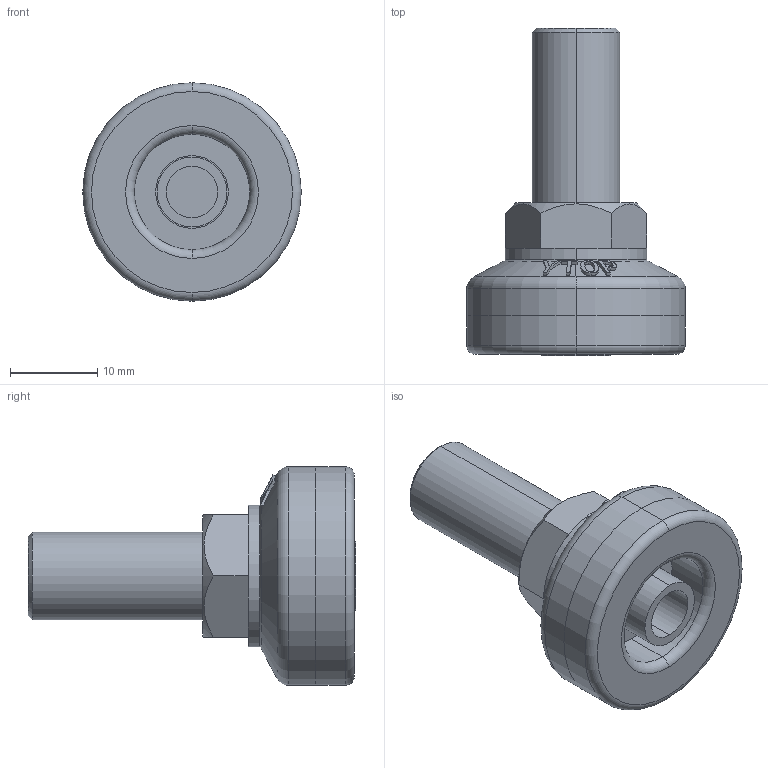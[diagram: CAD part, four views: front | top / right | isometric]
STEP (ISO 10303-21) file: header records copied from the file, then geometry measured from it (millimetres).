
FILE_DESCRIPTION (( 'STEP AP203' ), '1' );
FILE_NAME ('R-25-1020-TPU.STEP', '2020-09-11T02:17:45', ( '' ), ( '' ), 'SwSTEP 2.0', 'SolidWorks 2016', '' );
FILE_SCHEMA (( 'CONFIG_CONTROL_DESIGN' ));
Length unit declared in the file: millimetre
Products named in the file (4): S倰覃誹褐_25菁菜; R-25-1020-TPU; S倰覃誹褐_25裔赽; 穩諉蹟裝M10炵蹈_M10X20
Assembly tree (3 placements, depth 2):
  R-25-1020-TPU
    S倰覃誹褐_25菁菜
    S倰覃誹褐_25裔赽
    穩諉蹟裝M10炵蹈_M10X20
Bounding box: 25 x 37.5 x 25 mm (x, y, z)
Volume: 6115.1 mm3; surface area: 5622.6 mm2
Topology: 3 solids, 3 shells, 130 faces, 311 edges, 200 vertices
Faces by surface type: bspline 38, plane 36, cylinder 26, torus 16, cone 14
Entity records: 6930 total; most frequent: CARTESIAN_POINT 3750, ORIENTED_EDGE 622, DIRECTION 491, EDGE_CURVE 311, AXIS2_PLACEMENT_3D 206, VERTEX_POINT 200, EDGE_LOOP 147, ADVANCED_FACE 130
